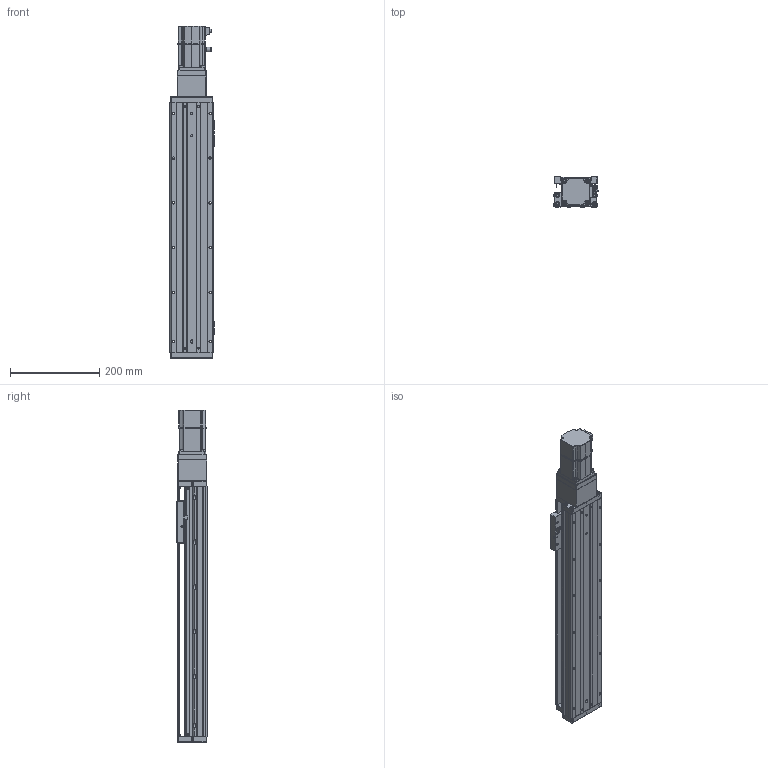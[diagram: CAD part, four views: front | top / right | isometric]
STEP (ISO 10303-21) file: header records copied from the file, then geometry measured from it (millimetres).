
FILE_DESCRIPTION (( 'STEP AP203' ), '1' );
FILE_NAME ('KTHA100-400-BC-M20-C4L.step', '2022-04-26T01:44:16', ( '微软用户' ), ( '微软中国' ), 'SwSTEP 2.0', 'SolidWorks 2020', '' );
FILE_SCHEMA (( 'CONFIG_CONTROL_DESIGN' ));
Length unit declared in the file: millimetre
Products named in the file (18): KTHA100-004; GBT 70.1-M3℅6; CTHA86-006-1_CTHA86-006-2; KTHA100-005; GBT70.1 M5℅16; KTHA100-400-BC-M20-C4L; GB¨uT 70.2-M3¡Á5_M3¡Á6; CTHA60-016; EE_SX911P_R; GBT 70.3-M3℅6; CTHA60-017; _X2_4E0983F1_X0_200W_1; KTHA100-001_560; CTHA60-021; CTHA86-013; KTHA100-002; GBT77-2000 M3×3; CTHA86-027
Assembly tree (56 placements, depth 2):
  KTHA100-400-BC-M20-C4L
    KTHA100-001_560
    KTHA100-002
    KTHA100-004
    KTHA100-005
    GB¨uT 70.2-M3¡Á5_M3¡Á6  x6
    EE_SX911P_R  x3
    CTHA60-017  x3
    CTHA60-021  x2
    GBT77-2000 M3×3  x6
    GBT 70.1-M3℅6  x6
    GBT70.1 M5℅16  x14
    CTHA60-016  x2
    GBT 70.3-M3℅6  x6
    _X2_4E0983F1_X0_200W_1
    CTHA86-013
    CTHA86-027
    CTHA86-006-1_CTHA86-006-2
Bounding box: 98.82 x 68 x 742.5 mm (x, y, z)
Volume: 2813756.1 mm3; surface area: 478500.4 mm2
Topology: 59 solids, 59 shells, 2367 faces, 5632 edges, 3472 vertices
Faces by surface type: plane 1203, cylinder 649, cone 326, torus 104, bspline 69, sphere 16
Entity records: 40306 total; most frequent: CARTESIAN_POINT 7751, DIRECTION 6329, ORIENTED_EDGE 6032, EDGE_CURVE 3016, AXIS2_PLACEMENT_3D 2222, VERTEX_POINT 1890, VECTOR 1885, LINE 1885
